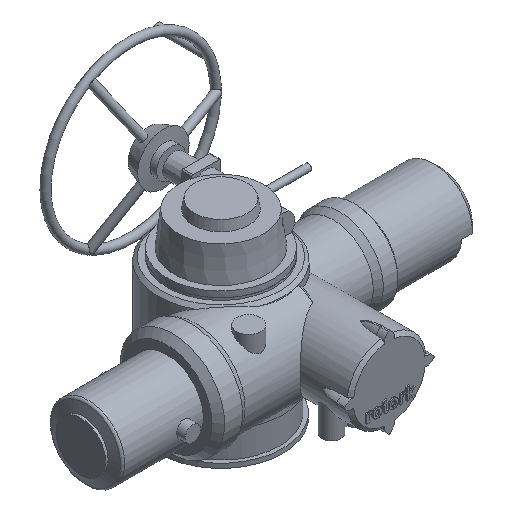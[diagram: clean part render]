
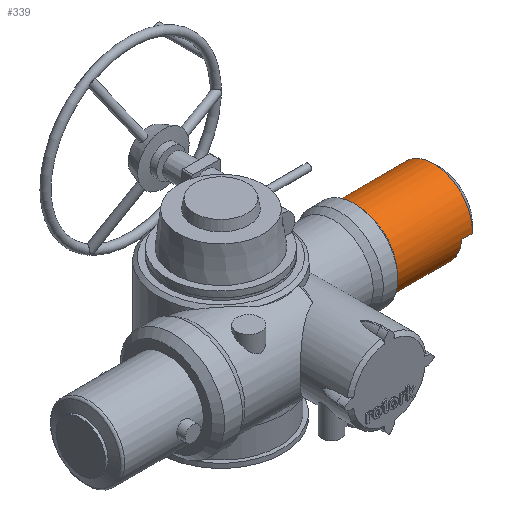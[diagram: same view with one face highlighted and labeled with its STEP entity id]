
A CAD part, isometric view. The second image highlights one B-rep face of the part: STEP entity #339.
In plain terms, the highlighted cylindrical face has radius 93.5 mm (diameter 187 mm), a full revolution.
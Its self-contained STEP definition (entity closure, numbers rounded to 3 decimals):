
#339 = ADVANCED_FACE( '', ( #1025, #1026 ), #1027, .T. );
#1025 = FACE_OUTER_BOUND( '', #1812, .T. );
#1026 = FACE_OUTER_BOUND( '', #1813, .T. );
#1027 = CYLINDRICAL_SURFACE( '', #1814, 93.5 );
#1812 = EDGE_LOOP( '', ( #4107, #4108, #4109, #4110, #4111, #4112, #4113, #4114 ) );
#1813 = EDGE_LOOP( '', ( #4115 ) );
#1814 = AXIS2_PLACEMENT_3D( '', #4116, #4117, #4118 );
#4107 = ORIENTED_EDGE( '', *, *, #4535, .T. );
#4108 = ORIENTED_EDGE( '', *, *, #4529, .F. );
#4109 = ORIENTED_EDGE( '', *, *, #4761, .T. );
#4110 = ORIENTED_EDGE( '', *, *, #4554, .F. );
#4111 = ORIENTED_EDGE( '', *, *, #4539, .T. );
#4112 = ORIENTED_EDGE( '', *, *, #4552, .F. );
#4113 = ORIENTED_EDGE( '', *, *, #4556, .T. );
#4114 = ORIENTED_EDGE( '', *, *, #4520, .F. );
#4115 = ORIENTED_EDGE( '', *, *, #4764, .F. );
#4116 = CARTESIAN_POINT( '', ( -26.871, -35., 0. ) );
#4117 = DIRECTION( '', ( 1., 0., 0. ) );
#4118 = DIRECTION( '', ( 0., 0., 1. ) );
#4520 = EDGE_CURVE( '', #5475, #5476, #5477, .F. );
#4529 = EDGE_CURVE( '', #5492, #5493, #5494, .T. );
#4535 = EDGE_CURVE( '', #5475, #5493, #5502, .F. );
#4539 = EDGE_CURVE( '', #5504, #5508, #5510, .F. );
#4552 = EDGE_CURVE( '', #5531, #5508, #5532, .T. );
#4554 = EDGE_CURVE( '', #5504, #5534, #5535, .F. );
#4556 = EDGE_CURVE( '', #5531, #5476, #5537, .T. );
#4761 = EDGE_CURVE( '', #5492, #5534, #5852, .T. );
#4764 = EDGE_CURVE( '', #5857, #5857, #5858, .T. );
#5475 = VERTEX_POINT( '', #8943 );
#5476 = VERTEX_POINT( '', #8944 );
#5477 = LINE( '', #8945, #8946 );
#5492 = VERTEX_POINT( '', #8971 );
#5493 = VERTEX_POINT( '', #8972 );
#5494 = LINE( '', #8973, #8974 );
#5502 = CIRCLE( '', #8990, 93.5 );
#5504 = VERTEX_POINT( '', #8992 );
#5508 = VERTEX_POINT( '', #8999 );
#5510 = CIRCLE( '', #9004, 93.5 );
#5531 = VERTEX_POINT( '', #9031 );
#5532 = LINE( '', #9032, #9033 );
#5534 = VERTEX_POINT( '', #9038 );
#5535 = LINE( '', #9039, #9040 );
#5537 = CIRCLE( '', #9045, 93.5 );
#5852 = CIRCLE( '', #10040, 93.5 );
#5857 = VERTEX_POINT( '', #10045 );
#5858 = CIRCLE( '', #10046, 93.5 );
#8943 = CARTESIAN_POINT( '', ( 455.7, 58.238, -7. ) );
#8944 = CARTESIAN_POINT( '', ( 480.7, 58.238, -7. ) );
#8945 = CARTESIAN_POINT( '', ( -26.871, 58.238, -7. ) );
#8946 = VECTOR( '', #10616, 1000. );
#8971 = CARTESIAN_POINT( '', ( 480.7, -28., -93.238 ) );
#8972 = CARTESIAN_POINT( '', ( 455.7, -28., -93.238 ) );
#8973 = CARTESIAN_POINT( '', ( -26.871, -28., -93.238 ) );
#8974 = VECTOR( '', #10627, 1000. );
#8990 = AXIS2_PLACEMENT_3D( '', #10633, #10634, #10635 );
#8992 = CARTESIAN_POINT( '', ( 455.7, -42., -93.238 ) );
#8999 = CARTESIAN_POINT( '', ( 455.7, -128.238, -7. ) );
#9004 = AXIS2_PLACEMENT_3D( '', #10639, #10640, #10641 );
#9031 = CARTESIAN_POINT( '', ( 480.7, -128.238, -7. ) );
#9032 = CARTESIAN_POINT( '', ( -26.871, -128.238, -7. ) );
#9033 = VECTOR( '', #10666, 1000. );
#9038 = CARTESIAN_POINT( '', ( 480.7, -42., -93.238 ) );
#9039 = CARTESIAN_POINT( '', ( -26.871, -42., -93.238 ) );
#9040 = VECTOR( '', #10667, 1000. );
#9045 = AXIS2_PLACEMENT_3D( '', #10668, #10669, #10670 );
#10040 = AXIS2_PLACEMENT_3D( '', #10874, #10875, #10876 );
#10045 = CARTESIAN_POINT( '', ( 298.7, -35., 93.5 ) );
#10046 = AXIS2_PLACEMENT_3D( '', #10883, #10884, #10885 );
#10616 = DIRECTION( '', ( -1., 0., 0. ) );
#10627 = DIRECTION( '', ( -1., 0., 0. ) );
#10633 = CARTESIAN_POINT( '', ( 455.7, -35., 0. ) );
#10634 = DIRECTION( '', ( 1., 0., 0. ) );
#10635 = DIRECTION( '', ( 0., 0., -1. ) );
#10639 = CARTESIAN_POINT( '', ( 455.7, -35., 0. ) );
#10640 = DIRECTION( '', ( 1., 0., 0. ) );
#10641 = DIRECTION( '', ( 0., 0., -1. ) );
#10666 = DIRECTION( '', ( -1., 0., 0. ) );
#10667 = DIRECTION( '', ( -1., 0., 0. ) );
#10668 = CARTESIAN_POINT( '', ( 480.7, -35., 0. ) );
#10669 = DIRECTION( '', ( -1., 0., 0. ) );
#10670 = DIRECTION( '', ( 0., 0., 1. ) );
#10874 = CARTESIAN_POINT( '', ( 480.7, -35., 0. ) );
#10875 = DIRECTION( '', ( -1., 0., 0. ) );
#10876 = DIRECTION( '', ( 0., 0., 1. ) );
#10883 = CARTESIAN_POINT( '', ( 298.7, -35., 0. ) );
#10884 = DIRECTION( '', ( -1., 0., 0. ) );
#10885 = DIRECTION( '', ( 0., 0., 1. ) );
